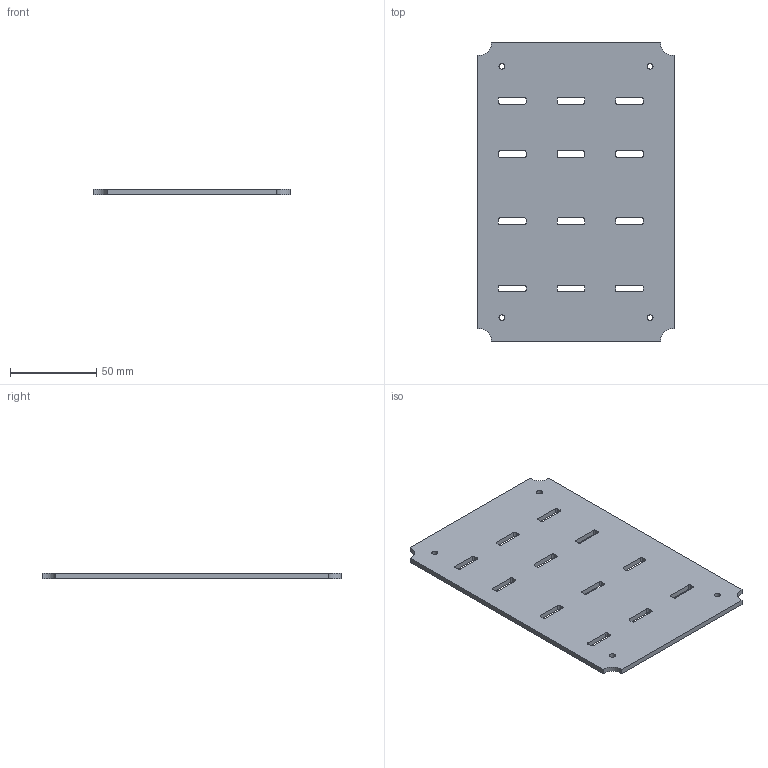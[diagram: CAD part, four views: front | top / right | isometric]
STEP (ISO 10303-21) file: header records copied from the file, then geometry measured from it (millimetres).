
FILE_DESCRIPTION(('Open CASCADE Model'),'2;1');
FILE_NAME('Open CASCADE Shape Model','2026-10-07T15:46:24',('Author'),( 'Open CASCADE'),'Open CASCADE STEP processor 7.9','Open CASCADE 7.9' ,'Unknown');
FILE_SCHEMA(('AUTOMOTIVE_DESIGN { 1 0 10303 214 1 1 1 1 }'));
Length unit declared in the file: millimetre
Products named in the file (1): Open CASCADE STEP translator 7.9 3
Bounding box: 114 x 174 x 3 mm (x, y, z)
Volume: 56515.5 mm3; surface area: 40878.2 mm2
Topology: 1 solids, 1 shells, 110 faces, 324 edges, 216 vertices
Faces by surface type: cylinder 56, plane 54
Full cylindrical faces by diameter (mm): 3.4 x4
Entity records: 7823 total; most frequent: CARTESIAN_POINT 1597, DIRECTION 1083, ORIENTED_EDGE 648, PCURVE 648, DEFINITIONAL_REPRESENTATION 648, LINE 540, VECTOR 540, EDGE_CURVE 324
